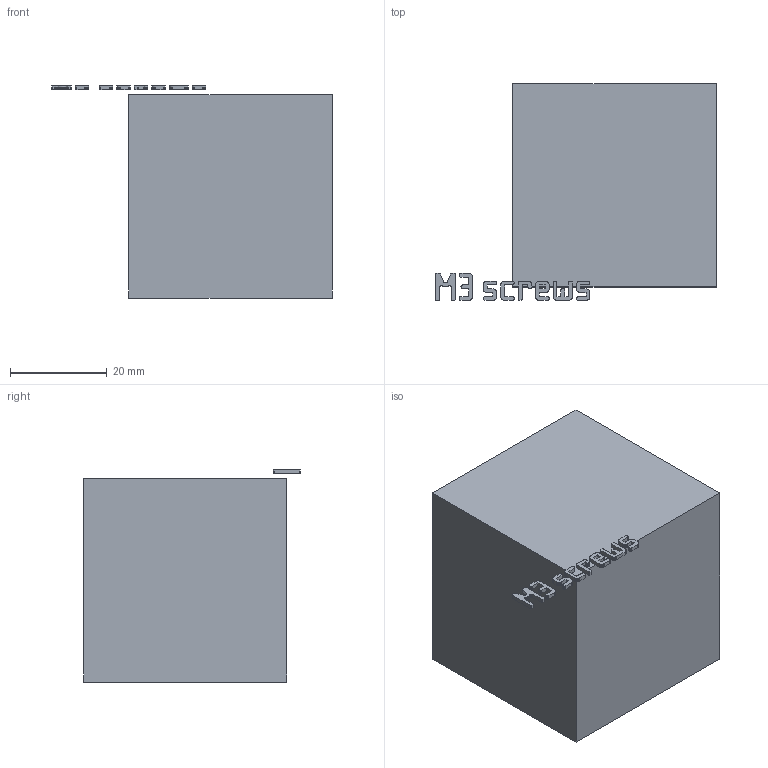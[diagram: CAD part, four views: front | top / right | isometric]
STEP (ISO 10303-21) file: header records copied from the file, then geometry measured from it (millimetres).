
FILE_DESCRIPTION(('Open CASCADE Model'),'2;1');
FILE_NAME('Open CASCADE Shape Model','2026-11-03T16:03:57',('Author'),( 'Open CASCADE'),'Open CASCADE STEP processor 8.0','build123d', 'Unknown');
FILE_SCHEMA(('AUTOMOTIVE_DESIGN { 1 0 10303 214 1 1 1 1 }'));
Products named in the file (1): COMPOUND
Bounding box: 57.92 x 44.8 x 43.8 mm (x, y, z)
Volume: 19267.4 mm3; surface area: 19506.9 mm2
Topology: 9 solids, 10 shells, 839 faces, 2457 edges, 1638 vertices
Faces by surface type: plane 839
Entity records: 59160 total; most frequent: CARTESIAN_POINT 9857, DIRECTION 9043, LINE 7363, VECTOR 7363, ORIENTED_EDGE 4914, PCURVE 4914, DEFINITIONAL_REPRESENTATION 4914, EDGE_CURVE 2457
